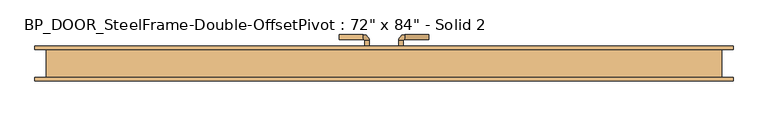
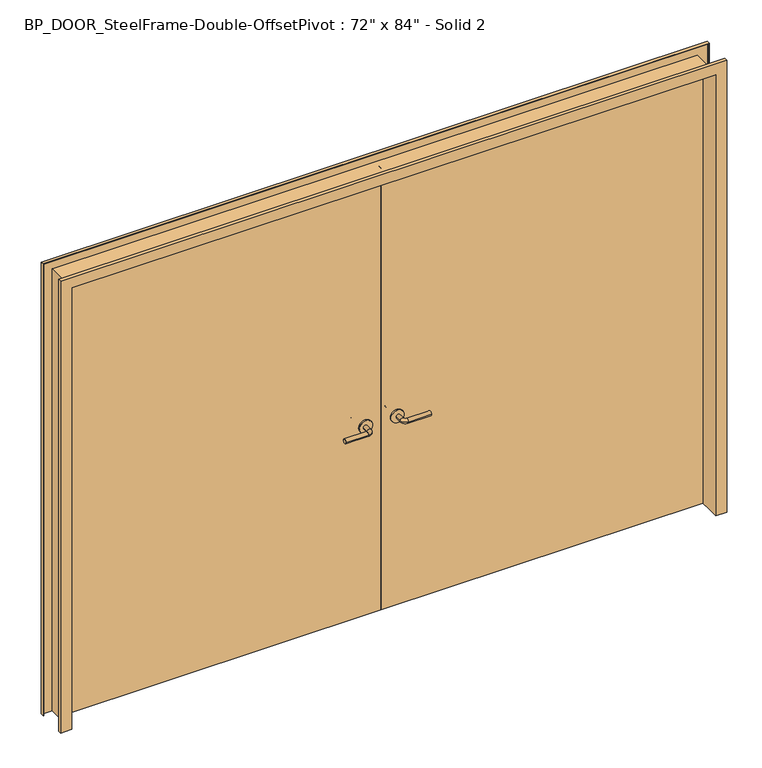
"""IFC4 building model written with IfcOpenShell, lengths in millimetres: door geometry."""

import ifcopenshell
import ifcopenshell.guid

model = None  # the IFC model being written
_history = None  # IfcOwnerHistory: only IFC2X3 demands one
_inside = {}  # id of a spatial element -> (the spatial element, [elements in it])
_under = {}  # id of a project, library or spatial element -> (it, [spatial elements below it])
_declared = {}  # id of a project -> (the project, [libraries it declares])
_typed = {}  # id of a type object -> (the type object, [elements of that type])
_made_of = {}  # id of a material, layer set ... -> (it, [elements and type objects made of it])


def new_model(schema):
    """Start an empty IFC model of exactly this schema.

    Asked for "IFC4X3", IfcOpenShell would pick the latest addendum, in which some entities
    have other attributes; the version numbers below select the first issue.
    IFC2X3 requires an IfcOwnerHistory on every rooted entity: one is made here for all.
    """
    global model, _history
    if schema == "IFC4X3":
        model = ifcopenshell.file(schema_version=(4, 3, 0, 0))
    else:
        model = ifcopenshell.file(schema=schema)
    _inside.clear()
    _under.clear()
    _declared.clear()
    _typed.clear()
    _made_of.clear()
    _history = None
    if model.schema == "IFC2X3":
        org = make("IfcOrganization", Name="unknown")
        user = make(
            "IfcPersonAndOrganization",
            ThePerson=make("IfcPerson", FamilyName="unknown"),
            TheOrganization=org,
        )
        app = make(
            "IfcApplication",
            ApplicationDeveloper=org,
            Version="unknown",
            ApplicationFullName="unknown",
            ApplicationIdentifier="unknown",
        )
        _history = make(
            "IfcOwnerHistory",
            OwningUser=user,
            OwningApplication=app,
            ChangeAction="ADDED",
            CreationDate=0,
        )
    return model


def make(cls, **values):
    """One entity of the class cls with the attributes given. An attribute that is None is left unset."""
    return model.create_entity(
        cls, **{name: value for name, value in values.items() if value is not None}
    )


def rooted(cls, **values):
    """An entity with a GlobalId (a new one), such as an element, a storey or a relation."""
    return make(cls, GlobalId=ifcopenshell.guid.new(), OwnerHistory=_history, **values)


def si_unit(unit_type, name, prefix=None):
    """IfcSIUnit, for example si_unit("LENGTHUNIT", "METRE", prefix="MILLI")."""
    return make("IfcSIUnit", UnitType=unit_type, Prefix=prefix, Name=name)


def assignment(units):
    """IfcUnitAssignment: the units of a project."""
    return None if units is None else make("IfcUnitAssignment", Units=units)


def point(xyz):
    """IfcCartesianPoint."""
    return None if xyz is None else make("IfcCartesianPoint", Coordinates=xyz)


def direction(xyz):
    """IfcDirection."""
    return None if xyz is None else make("IfcDirection", DirectionRatios=xyz)


def frame(location, z_axis=None, x_axis=None):
    """IfcAxis2Placement3D, a coordinate frame: its origin and axes. An axis left out is left unset."""
    return make(
        "IfcAxis2Placement3D",
        Location=point(location),
        Axis=direction(z_axis),
        RefDirection=direction(x_axis),
    )


def frame_2d(location, x_axis=None):
    """IfcAxis2Placement2D, a coordinate frame in the plane: its origin and x axis."""
    return make(
        "IfcAxis2Placement2D", Location=point(location), RefDirection=direction(x_axis)
    )


def origin():
    """The frame at (0, 0, 0) with its axes left unset."""
    return frame((0.0, 0.0, 0.0))


def origin_with_axes():
    """The frame at (0, 0, 0) with the z axis (0, 0, 1) and the x axis (1, 0, 0) written out."""
    return frame((0.0, 0.0, 0.0), z_axis=(0.0, 0.0, 1.0), x_axis=(1.0, 0.0, 0.0))


def place(relative_to, where):
    """IfcLocalPlacement: puts the frame where relative to a parent placement (None: the world)."""
    return make(
        "IfcLocalPlacement", PlacementRelTo=relative_to, RelativePlacement=where
    )


def context(
    kind, dimensions, precision=None, world=None, true_north=None, identifier=None
):
    """IfcGeometricRepresentationContext, for example the 3D "Model" context."""
    return make(
        "IfcGeometricRepresentationContext",
        ContextIdentifier=identifier,
        ContextType=kind,
        CoordinateSpaceDimension=dimensions,
        Precision=precision,
        WorldCoordinateSystem=world,
        TrueNorth=true_north,
    )


def project(units=None, contexts=None):
    """IfcProject with its units and contexts."""
    return rooted(
        "IfcProject",
        Name="project",
        RepresentationContexts=contexts,
        UnitsInContext=assignment(units),
    )


def spatial(cls, under=None, at=None, **own):
    """A site, building, storey or space (cls), placed at a placement, below another one or the project."""
    s = rooted(cls, ObjectPlacement=at, **own)
    if under is not None:
        _under.setdefault(under.id(), (under, []))[1].append(s)
    return s


def polyline(points):
    """IfcPolyline through the points."""
    return make("IfcPolyline", Points=[point(p) for p in points])


def circle_curve(where, radius):
    """IfcCircle in the frame where."""
    return make("IfcCircle", Position=where, Radius=radius)


def ellipse_curve(where, semi_axis1, semi_axis2):
    """IfcEllipse in the frame where."""
    return make(
        "IfcEllipse", Position=where, SemiAxis1=semi_axis1, SemiAxis2=semi_axis2
    )


def trimmed(basis, trim1, trim2, sense, master):
    """IfcTrimmedCurve: the piece of a basis curve between two trims."""
    return make(
        "IfcTrimmedCurve",
        BasisCurve=basis,
        Trim1=trim1,
        Trim2=trim2,
        SenseAgreement=sense,
        MasterRepresentation=master,
    )


def segment(curve, same_sense, transition):
    """IfcCompositeCurveSegment."""
    return make(
        "IfcCompositeCurveSegment",
        Transition=transition,
        SameSense=same_sense,
        ParentCurve=curve,
    )


def composite_curve(segments, self_intersect=None):
    """IfcCompositeCurve: segments joined end to end."""
    return make("IfcCompositeCurve", Segments=segments, SelfIntersect=self_intersect)


def outline(outer, holes=None, kind="AREA"):
    """IfcArbitraryClosedProfileDef: a profile drawn as a closed curve; with holes, ...WithVoids."""
    if holes is None:
        return make("IfcArbitraryClosedProfileDef", ProfileType=kind, OuterCurve=outer)
    return make(
        "IfcArbitraryProfileDefWithVoids",
        ProfileType=kind,
        OuterCurve=outer,
        InnerCurves=holes,
    )


def extrude(swept, where, along, depth):
    """IfcExtrudedAreaSolid: the profile swept, set in the frame where, extruded along a direction by depth."""
    return make(
        "IfcExtrudedAreaSolid",
        SweptArea=swept,
        Position=where,
        ExtrudedDirection=direction(along),
        Depth=depth,
    )


def faces_of(points, faces, orient=None, outer=None):
    """IfcFace entities. A face is a list of loops; a loop is a list of indices into points, from 0.

    orient and outer hold one flag for each loop. By default every Orientation is true, the
    first loop of a face is its IfcFaceOuterBound and the others are IfcFaceBound.
    """
    made = []
    for i, loops in enumerate(faces):
        bounds = []
        for j, loop in enumerate(loops):
            is_outer = j == 0 if outer is None else outer[i][j]
            bounds.append(
                make(
                    "IfcFaceOuterBound" if is_outer else "IfcFaceBound",
                    Bound=make("IfcPolyLoop", Polygon=[points[k] for k in loop]),
                    Orientation=True if orient is None else orient[i][j],
                )
            )
        made.append(make("IfcFace", Bounds=bounds))
    return made


def faceted_brep(points, faces, orient=None, outer=None, voids=None):
    """IfcFacetedBrep: a solid bounded by flat faces; with voids (closed shells), ...WithVoids."""
    shared = [point(p) for p in points]
    hull = make("IfcClosedShell", CfsFaces=faces_of(shared, faces, orient, outer))
    if voids is None:
        return make("IfcFacetedBrep", Outer=hull)
    return make(
        "IfcFacetedBrepWithVoids",
        Outer=hull,
        Voids=[
            make(cls, CfsFaces=faces_of(shared, fs, o, b)) for cls, fs, o, b in voids
        ],
    )


def shape(context_of_items, identifier, shape_type, items):
    """IfcShapeRepresentation: the items that make up one representation, for example the "Body"."""
    return make(
        "IfcShapeRepresentation",
        ContextOfItems=context_of_items,
        RepresentationIdentifier=identifier,
        RepresentationType=shape_type,
        Items=items,
    )


def source(mapping_origin, context_of_items, identifier, shape_type, items):
    """IfcRepresentationMap: a shape defined once, which mapped items show again and again."""
    return make(
        "IfcRepresentationMap",
        MappingOrigin=mapping_origin,
        MappedRepresentation=shape(context_of_items, identifier, shape_type, items),
    )


def transform(
    local_origin,
    x_axis=None,
    y_axis=None,
    z_axis=None,
    scale=None,
    scale2=None,
    scale3=None,
    uniform=True,
):
    """IfcCartesianTransformationOperator3D, or its non-uniform kind. x_axis, y_axis, z_axis: its Axis1, 2, 3."""
    if uniform:
        return make(
            "IfcCartesianTransformationOperator3D",
            Axis1=direction(x_axis),
            Axis2=direction(y_axis),
            LocalOrigin=point(local_origin),
            Scale=scale,
            Axis3=direction(z_axis),
        )
    return make(
        "IfcCartesianTransformationOperator3DnonUniform",
        Axis1=direction(x_axis),
        Axis2=direction(y_axis),
        LocalOrigin=point(local_origin),
        Scale=scale,
        Axis3=direction(z_axis),
        Scale2=scale2,
        Scale3=scale3,
    )


def mapped(mapping_source, mapping_target):
    """IfcMappedItem: shows the shape of a source again, moved by a transform."""
    return make(
        "IfcMappedItem", MappingSource=mapping_source, MappingTarget=mapping_target
    )


def made_of(thing, what):
    """Note that an element or type object is made of a material, layer set ...; save() writes the relation."""
    if what is not None:
        _made_of.setdefault(what.id(), (what, []))[1].append(thing)
    return thing


def element(
    cls,
    number,
    at=None,
    inside=None,
    cuts=None,
    type_object=None,
    material=None,
    context=None,
    identifier="Body",
    shape_type=None,
    held_by="IfcProductDefinitionShape",
    body=None,
    shapes=None,
    **own,
):
    """One element of the class cls, such as IfcWall. Its Tag is "e" and its number.

    at: its placement. inside: the storey or other place that contains it. cuts: it is an
    opening in that element (IfcRelVoidsElement). A single representation is given by context,
    identifier, shape_type and body (its items); several are given by shapes. held_by: the class
    of the entity that holds the representations. save() writes the other relations.
    """
    e = rooted(cls, Tag="e%d" % number, ObjectPlacement=at, **own)
    if body is not None:
        shapes = [shape(context, identifier, shape_type, body)]
    if shapes is not None:
        e.Representation = make(held_by, Representations=shapes)
    if inside is not None:
        _inside.setdefault(inside.id(), (inside, []))[1].append(e)
    if cuts is not None:
        rooted(
            "IfcRelVoidsElement", RelatingBuildingElement=cuts, RelatedOpeningElement=e
        )
    if type_object is not None:
        _typed.setdefault(type_object.id(), (type_object, []))[1].append(e)
    return made_of(e, material)


def aggregate(whole, parts):
    """IfcRelAggregates: a whole, such as a stair, and the parts it consists of."""
    return rooted("IfcRelAggregates", RelatingObject=whole, RelatedObjects=parts)


def save(model, path):
    """Write the relations noted so far, then the file.

    IfcRelAggregates (storeys below a building ...), IfcRelContainedInSpatialStructure (elements
    in a storey), IfcRelDefinesByType, IfcRelAssociatesMaterial and IfcRelDeclares: one each for
    every whole, place, type object, material and project.
    """
    for whole, parts in _under.values():
        aggregate(whole, parts)
    for where, things in _inside.values():
        rooted(
            "IfcRelContainedInSpatialStructure",
            RelatedElements=things,
            RelatingStructure=where,
        )
    for kind, things in _typed.values():
        rooted("IfcRelDefinesByType", RelatedObjects=things, RelatingType=kind)
    for what, things in _made_of.values():
        rooted("IfcRelAssociatesMaterial", RelatedObjects=things, RelatingMaterial=what)
    for by, libraries in _declared.values():
        rooted("IfcRelDeclares", RelatingContext=by, RelatedDefinitions=libraries)
    model.write(path)


def plane_surface(at):
    """IfcPlane: the flat surface through the origin of the frame at, square to its z axis."""
    return make("IfcPlane", Position=at)


def cylinder_surface(at, radius):
    """IfcCylindricalSurface: all points at the distance radius from the z axis of the frame at."""
    return make("IfcCylindricalSurface", Position=at, Radius=radius)


def revolved_surface(curve, axis_point, axis_direction):
    """IfcSurfaceOfRevolution: the curve turned about the line through axis_point along axis_direction."""
    return make(
        "IfcSurfaceOfRevolution",
        SweptCurve=make("IfcArbitraryOpenProfileDef", ProfileType="CURVE", Curve=curve),
        AxisPosition=make("IfcAxis1Placement", Location=point(axis_point), Axis=direction(axis_direction)),
    )


def advanced_brep(points, edges, surfaces, faces):
    """IfcAdvancedBrep: a solid bounded by faces that lie on surfaces and meet in shared edges.

    An edge is (start, end): straight between two places in points (the first is 0);
    or (start, end, curve); or (start, end, curve, False) where it runs against its curve.
    A face is (place in surfaces, loops), or (place, loops, False) where it looks against
    its surface's normal. A loop lists edges by number (the first is 1), with a minus sign
    where the edge is run from its end to its start. The first loop is the outer one.
    """
    corners = [point(p) for p in points]
    vertices = [make("IfcVertexPoint", VertexGeometry=c) for c in corners]
    made = []
    for start, end, *more in edges:
        made.append(
            make(
                "IfcEdgeCurve",
                EdgeStart=vertices[start],
                EdgeEnd=vertices[end],
                EdgeGeometry=more[0] if more else make("IfcPolyline", Points=[corners[start], corners[end]]),
                SameSense=more[1] if len(more) > 1 else True,
            )
        )
    hull = []
    for where, loops, *sense in faces:
        bounds = []
        for j, loop in enumerate(loops):
            ring = [make("IfcOrientedEdge", EdgeElement=made[abs(k) - 1], Orientation=k > 0) for k in loop]
            bounds.append(
                make(
                    "IfcFaceOuterBound" if j == 0 else "IfcFaceBound",
                    Bound=make("IfcEdgeLoop", EdgeList=ring),
                    Orientation=True,
                )
            )
        hull.append(make("IfcAdvancedFace", Bounds=bounds, FaceSurface=surfaces[where], SameSense=sense[0] if sense else True))
    return make("IfcAdvancedBrep", Outer=make("IfcClosedShell", CfsFaces=hull))


def door_cf1101c9(model_context):
    return source(origin(), model_context, "Body", "SolidModel", [
        extrude(outline(polyline([(1473.2, 25.4), (0.0, 25.4), (0.0, 63.5), (1473.2, 63.5), (1473.2, 25.4)])), origin_with_axes(), (0.0, 0.0, 1.0), 2133.6),
        extrude(outline(polyline([(0.0, 25.4), (-1473.2, 25.4), (-1473.2, 63.5), (0.0, 63.5), (0.0, 25.4)])), origin_with_axes(), (0.0, 0.0, 1.0), 2133.6),
        advanced_brep(
        [(-65.0, 17.4, 915.0), (-85.0, 17.4, 915.0), (-65.0, -12.6, 915.0), (-85.0, -12.6, 915.0), (-90.0, -17.6, 915.0), (-90.0, -37.6, 915.0), (-195.0, -37.6, 915.0), (-195.0, -17.6, 915.0)],
        [
            (0, 1, circle_curve(frame((-75.0, 17.4, 915.0), z_axis=(0.0, 1.0, 0.0), x_axis=(-1.0, 0.0, 0.0)), 10.0)),
            (1, 0, circle_curve(frame((-75.0, 17.4, 915.0), z_axis=(0.0, 1.0, 0.0), x_axis=(-1.0, 0.0, 0.0)), 10.0)),
            (0, 2),
            (2, 3, circle_curve(frame((-75.0, -12.6, 915.0), z_axis=(0.0, 1.0, 0.0), x_axis=(-1.0, 0.0, 0.0)), 10.0)),
            (3, 1),
            (3, 2, circle_curve(frame((-75.0, -12.6, 915.0), z_axis=(0.0, 1.0, 0.0), x_axis=(-1.0, 0.0, 0.0)), 10.0)),
            (4, 3, circle_curve(frame((-90.0, -12.6, 915.0), z_axis=(0.0, 0.0, 1.0), x_axis=(1.0, 0.0, 0.0)), 5.0)),
            (2, 5, circle_curve(frame((-90.0, -12.6, 915.0), z_axis=(0.0, 0.0, -1.0), x_axis=(1.0, 0.0, 0.0)), 25.0)),
            (5, 4, circle_curve(frame((-90.0, -27.6, 915.0), z_axis=(1.0, 0.0, 0.0), x_axis=(0.0, 1.0, 0.0)), 10.0)),
            (4, 5, circle_curve(frame((-90.0, -27.6, 915.0), z_axis=(1.0, 0.0, 0.0), x_axis=(0.0, 1.0, 0.0)), 10.0)),
            (6, 7, circle_curve(frame((-195.0, -27.6, 915.0), z_axis=(-1.0, 0.0, 0.0), x_axis=(0.0, 1.0, 0.0)), 10.0)),
            (7, 6, circle_curve(frame((-195.0, -27.6, 915.0), z_axis=(-1.0, 0.0, 0.0), x_axis=(0.0, 1.0, 0.0)), 10.0)),
            (5, 6),
            (7, 4),
        ],
        [
            plane_surface(frame((-75.0, 17.4, 915.0), z_axis=(0.0, 1.0, 0.0), x_axis=(0.0, 0.0, 1.0))),
            cylinder_surface(frame((-75.0, 17.4, 915.0), z_axis=(0.0, 1.0, 0.0), x_axis=(-1.0, 0.0, 0.0)), 10.0),
            revolved_surface(trimmed(ellipse_curve(frame((-75.0, -12.6, 915.0), z_axis=(0.0, 1.0, 0.0), x_axis=(-1.0, 0.0, 0.0)), 10.0, 10.0), [point((-65.0, -12.6, 915.0))], [point((-85.0, -12.6, 915.0))], True, "CARTESIAN"), (-90.0, -12.6, 915.0), (0.0, 0.0, -1.0)),
            revolved_surface(trimmed(ellipse_curve(frame((-75.0, -12.6, 915.0), z_axis=(0.0, 1.0, 0.0), x_axis=(-1.0, 0.0, 0.0)), 10.0, 10.0), [point((-85.0, -12.6, 915.0))], [point((-65.0, -12.6, 915.0))], True, "CARTESIAN"), (-90.0, -12.6, 915.0), (0.0, 0.0, -1.0)),
            plane_surface(frame((-195.0, -27.6, 915.0), z_axis=(-1.0, 0.0, 0.0), x_axis=(0.0, 0.0, 1.0))),
            cylinder_surface(frame((-90.0, -27.6, 915.0), z_axis=(1.0, 0.0, 0.0), x_axis=(0.0, 1.0, 0.0)), 10.0),
        ],
        [
            (0, [[1, 2]]),
            (1, [[-1, 3, 4, 5]]),
            (1, [[-2, -5, 6, -3]]),
            (2, [[7, -4, 8, 9]]),
            (3, [[-8, -6, -7, 10]]),
            (4, [[11, 12]]),
            (5, [[-9, 13, -12, 14]]),
            (5, [[-10, -14, -11, -13]]),
        ],
    ),
        extrude(outline(composite_curve([segment(trimmed(circle_curve(frame_2d((915.0, -72.5)), 30.0), [point((915.0, -42.5))], [point((915.0, -102.5))], False, "CARTESIAN"), True, "CONTINUOUS"), segment(trimmed(circle_curve(frame_2d((915.0, -72.5)), 30.0), [point((915.0, -102.5))], [point((915.0, -42.5))], False, "CARTESIAN"), True, "CONTINUOUS")], self_intersect=False)), frame((0.0, 17.4, 0.0), z_axis=(0.0, 1.0, 0.0), x_axis=(0.0, 0.0, 1.0)), (0.0, 0.0, 1.0), 8.0),
        advanced_brep(
        [(-65.0, 71.5, 915.0), (-85.0, 71.5, 915.0), (-85.0, 101.5, 915.0), (-65.0, 101.5, 915.0), (-90.0, 106.5, 915.0), (-90.0, 126.5, 915.0), (-195.0, 126.5, 915.0), (-195.0, 106.5, 915.0)],
        [
            (0, 1, circle_curve(frame((-75.0, 71.5, 915.0), z_axis=(0.0, -1.0, 0.0), x_axis=(-1.0, 0.0, 0.0)), 10.0)),
            (1, 0, circle_curve(frame((-75.0, 71.5, 915.0), z_axis=(0.0, -1.0, 0.0), x_axis=(-1.0, 0.0, 0.0)), 10.0)),
            (1, 2),
            (2, 3, circle_curve(frame((-75.0, 101.5, 915.0), z_axis=(0.0, -1.0, 0.0), x_axis=(-1.0, 0.0, 0.0)), 10.0)),
            (3, 0),
            (3, 2, circle_curve(frame((-75.0, 101.5, 915.0), z_axis=(0.0, -1.0, 0.0), x_axis=(-1.0, 0.0, 0.0)), 10.0)),
            (4, 5, circle_curve(frame((-90.0, 116.5, 915.0), z_axis=(1.0, 0.0, 0.0), x_axis=(0.0, -1.0, 0.0)), 10.0)),
            (5, 3, circle_curve(frame((-90.0, 101.5, 915.0), z_axis=(0.0, 0.0, -1.0), x_axis=(1.0, 0.0, 0.0)), 25.0)),
            (2, 4, circle_curve(frame((-90.0, 101.5, 915.0), z_axis=(0.0, 0.0, 1.0), x_axis=(1.0, 0.0, 0.0)), 5.0)),
            (5, 4, circle_curve(frame((-90.0, 116.5, 915.0), z_axis=(1.0, 0.0, 0.0), x_axis=(0.0, -1.0, 0.0)), 10.0)),
            (6, 7, circle_curve(frame((-195.0, 116.5, 915.0), z_axis=(-1.0, 0.0, 0.0), x_axis=(0.0, -1.0, 0.0)), 10.0)),
            (7, 6, circle_curve(frame((-195.0, 116.5, 915.0), z_axis=(-1.0, 0.0, 0.0), x_axis=(0.0, -1.0, 0.0)), 10.0)),
            (4, 7),
            (6, 5),
        ],
        [
            plane_surface(frame((-75.0, 71.5, 915.0), z_axis=(0.0, -1.0, 0.0), x_axis=(0.0, 0.0, 1.0))),
            cylinder_surface(frame((-75.0, 71.5, 915.0), z_axis=(0.0, -1.0, 0.0), x_axis=(-1.0, 0.0, 0.0)), 10.0),
            revolved_surface(trimmed(ellipse_curve(frame((-75.0, 101.5, 915.0), z_axis=(0.0, 1.0, 0.0), x_axis=(-1.0, 0.0, 0.0)), 10.0, 10.0), [point((-65.0, 101.5, 915.0))], [point((-85.0, 101.5, 915.0))], True, "CARTESIAN"), (-90.0, 101.5, 915.0), (0.0, 0.0, -1.0)),
            revolved_surface(trimmed(ellipse_curve(frame((-75.0, 101.5, 915.0), z_axis=(0.0, 1.0, 0.0), x_axis=(-1.0, 0.0, 0.0)), 10.0, 10.0), [point((-85.0, 101.5, 915.0))], [point((-65.0, 101.5, 915.0))], True, "CARTESIAN"), (-90.0, 101.5, 915.0), (0.0, 0.0, -1.0)),
            plane_surface(frame((-195.0, 116.5, 915.0), z_axis=(-1.0, 0.0, 0.0), x_axis=(0.0, 0.0, 1.0))),
            cylinder_surface(frame((-90.0, 116.5, 915.0), z_axis=(1.0, 0.0, 0.0), x_axis=(0.0, -1.0, 0.0)), 10.0),
        ],
        [
            (0, [[1, 2]]),
            (1, [[3, 4, 5, -2]]),
            (1, [[-5, 6, -3, -1]]),
            (2, [[7, 8, -4, 9]]),
            (3, [[10, -9, -6, -8]]),
            (4, [[11, 12]]),
            (5, [[13, -11, 14, -7]]),
            (5, [[-14, -12, -13, -10]]),
        ],
    ),
        extrude(outline(composite_curve([segment(trimmed(circle_curve(frame_2d((915.0, -72.5)), 30.0), [point((915.0, -42.5))], [point((915.0, -102.5))], False, "CARTESIAN"), True, "CONTINUOUS"), segment(trimmed(circle_curve(frame_2d((915.0, -72.5)), 30.0), [point((915.0, -102.5))], [point((915.0, -42.5))], False, "CARTESIAN"), True, "CONTINUOUS")], self_intersect=False)), frame((0.0, 63.5, 0.0), z_axis=(0.0, 1.0, 0.0), x_axis=(0.0, 0.0, 1.0)), (0.0, 0.0, 1.0), 8.0),
        faceted_brep([(1524.0, -61.2, 0.0), (1524.0, -76.2, 0.0), (1473.2, -76.2, 0.0), (1473.2, 76.2, 0.0), (1524.0, 76.2, 0.0), (1524.0, 61.2, 0.0), (1522.0, 61.2, 0.0), (1522.0, 74.2, 0.0), (1475.2, 74.2, 0.0), (1475.2, -74.2, 0.0), (1522.0, -74.2, 0.0), (1522.0, -61.2, 0.0), (1522.0, -61.2, 2182.4), (-1522.0, -61.2, 2182.4), (-1522.0, -61.2, 0.0), (-1524.0, -61.2, 0.0), (-1524.0, -61.2, 2184.4), (1524.0, -61.2, 2184.4), (1522.0, -74.2, 2182.4), (1475.2, -74.2, 2135.6), (-1475.2, -74.2, 2135.6), (-1475.2, -74.2, 0.0), (-1522.0, -74.2, 0.0), (-1522.0, -74.2, 2182.4), (1475.2, 74.2, 2135.6), (1522.0, 74.2, 2182.4), (-1522.0, 74.2, 2182.4), (-1522.0, 74.2, 0.0), (-1475.2, 74.2, 0.0), (-1475.2, 74.2, 2135.6), (1522.0, 61.2, 2182.4), (1524.0, 61.2, 2184.4), (-1524.0, 61.2, 2184.4), (-1524.0, 61.2, 0.0), (-1522.0, 61.2, 0.0), (-1522.0, 61.2, 2182.4), (1524.0, 76.2, 2184.4), (1473.2, 76.2, 2133.6), (-1473.2, 76.2, 2133.6), (-1473.2, 76.2, 0.0), (-1524.0, 76.2, 0.0), (-1524.0, 76.2, 2184.4), (1473.2, -76.2, 2133.6), (1524.0, -76.2, 2184.4), (-1524.0, -76.2, 2184.4), (-1524.0, -76.2, 0.0), (-1473.2, -76.2, 0.0), (-1473.2, -76.2, 2133.6)], [[[0, 1, 2, 3, 4, 5, 6, 7, 8, 9, 10, 11]], [[0, 11, 12, 13, 14, 15, 16, 17]], [[11, 10, 18, 12]], [[10, 9, 19, 20, 21, 22, 23, 18]], [[9, 8, 24, 19]], [[8, 7, 25, 26, 27, 28, 29, 24]], [[7, 6, 30, 25]], [[6, 5, 31, 32, 33, 34, 35, 30]], [[5, 4, 36, 31]], [[4, 3, 37, 38, 39, 40, 41, 36]], [[3, 2, 42, 37]], [[2, 1, 43, 44, 45, 46, 47, 42]], [[1, 0, 17, 43]], [[12, 18, 23, 13]], [[19, 24, 29, 20]], [[25, 30, 35, 26]], [[31, 36, 41, 32]], [[37, 42, 47, 38]], [[43, 17, 16, 44]], [[15, 14, 22, 21, 28, 27, 34, 33, 40, 39, 46, 45]], [[13, 23, 22, 14]], [[20, 29, 28, 21]], [[26, 35, 34, 27]], [[32, 41, 40, 33]], [[38, 47, 46, 39]], [[44, 16, 15, 45]]]),
        advanced_brep(
        [(65.0, 17.4, 915.0), (85.0, 17.4, 915.0), (85.0, -12.6, 915.0), (65.0, -12.6, 915.0), (90.0, -17.6, 915.0), (90.0, -37.6, 915.0), (195.0, -37.6, 915.0), (195.0, -17.6, 915.0)],
        [
            (0, 1, circle_curve(frame((75.0, 17.4, 915.0), z_axis=(0.0, 1.0, 0.0), x_axis=(1.0, 0.0, 0.0)), 10.0)),
            (1, 0, circle_curve(frame((75.0, 17.4, 915.0), z_axis=(0.0, 1.0, 0.0), x_axis=(1.0, 0.0, 0.0)), 10.0)),
            (1, 2),
            (2, 3, circle_curve(frame((75.0, -12.6, 915.0), z_axis=(0.0, 1.0, 0.0), x_axis=(1.0, 0.0, 0.0)), 10.0)),
            (3, 0),
            (3, 2, circle_curve(frame((75.0, -12.6, 915.0), z_axis=(0.0, 1.0, 0.0), x_axis=(1.0, 0.0, 0.0)), 10.0)),
            (4, 5, circle_curve(frame((90.0, -27.6, 915.0), z_axis=(-1.0, 0.0, 0.0), x_axis=(0.0, 1.0, 0.0)), 10.0)),
            (5, 3, circle_curve(frame((90.0, -12.6, 915.0), z_axis=(0.0, 0.0, -1.0), x_axis=(-1.0, 0.0, 0.0)), 25.0)),
            (2, 4, circle_curve(frame((90.0, -12.6, 915.0), z_axis=(0.0, 0.0, 1.0), x_axis=(-1.0, 0.0, 0.0)), 5.0)),
            (5, 4, circle_curve(frame((90.0, -27.6, 915.0), z_axis=(-1.0, 0.0, 0.0), x_axis=(0.0, 1.0, 0.0)), 10.0)),
            (6, 7, circle_curve(frame((195.0, -27.6, 915.0), z_axis=(1.0, 0.0, 0.0), x_axis=(0.0, 1.0, 0.0)), 10.0)),
            (7, 6, circle_curve(frame((195.0, -27.6, 915.0), z_axis=(1.0, 0.0, 0.0), x_axis=(0.0, 1.0, 0.0)), 10.0)),
            (4, 7),
            (6, 5),
        ],
        [
            plane_surface(frame((75.0, 17.4, 915.0), z_axis=(0.0, 1.0, 0.0), x_axis=(0.0, 0.0, 1.0))),
            cylinder_surface(frame((75.0, 17.4, 915.0), z_axis=(0.0, 1.0, 0.0), x_axis=(1.0, 0.0, 0.0)), 10.0),
            revolved_surface(trimmed(ellipse_curve(frame((75.0, -12.6, 915.0), z_axis=(0.0, -1.0, 0.0), x_axis=(1.0, 0.0, 0.0)), 10.0, 10.0), [point((65.0, -12.6, 915.0))], [point((85.0, -12.6, 915.0))], True, "CARTESIAN"), (90.0, -12.6, 915.0), (0.0, 0.0, -1.0)),
            revolved_surface(trimmed(ellipse_curve(frame((75.0, -12.6, 915.0), z_axis=(0.0, -1.0, 0.0), x_axis=(1.0, 0.0, 0.0)), 10.0, 10.0), [point((85.0, -12.6, 915.0))], [point((65.0, -12.6, 915.0))], True, "CARTESIAN"), (90.0, -12.6, 915.0), (0.0, 0.0, -1.0)),
            plane_surface(frame((195.0, -27.6, 915.0), z_axis=(1.0, 0.0, 0.0), x_axis=(0.0, 0.0, 1.0))),
            cylinder_surface(frame((90.0, -27.6, 915.0), z_axis=(-1.0, 0.0, 0.0), x_axis=(0.0, 1.0, 0.0)), 10.0),
        ],
        [
            (0, [[1, 2]]),
            (1, [[3, 4, 5, -2]]),
            (1, [[-5, 6, -3, -1]]),
            (2, [[7, 8, -4, 9]]),
            (3, [[10, -9, -6, -8]]),
            (4, [[11, 12]]),
            (5, [[13, -11, 14, -7]]),
            (5, [[-14, -12, -13, -10]]),
        ],
    ),
        extrude(outline(composite_curve([segment(trimmed(circle_curve(frame_2d((915.0, 72.5)), 30.0), [point((915.0, 42.5))], [point((915.0, 102.5))], False, "CARTESIAN"), True, "CONTINUOUS"), segment(trimmed(circle_curve(frame_2d((915.0, 72.5)), 30.0), [point((915.0, 102.5))], [point((915.0, 42.5))], False, "CARTESIAN"), True, "CONTINUOUS")], self_intersect=False)), frame((0.0, 17.4, 0.0), z_axis=(0.0, 1.0, 0.0), x_axis=(0.0, 0.0, 1.0)), (0.0, 0.0, 1.0), 8.0),
        advanced_brep(
        [(65.0, 71.5, 915.0), (85.0, 71.5, 915.0), (65.0, 101.5, 915.0), (85.0, 101.5, 915.0), (90.0, 106.5, 915.0), (90.0, 126.5, 915.0), (195.0, 126.5, 915.0), (195.0, 106.5, 915.0)],
        [
            (0, 1, circle_curve(frame((75.0, 71.5, 915.0), z_axis=(0.0, -1.0, 0.0), x_axis=(1.0, 0.0, 0.0)), 10.0)),
            (1, 0, circle_curve(frame((75.0, 71.5, 915.0), z_axis=(0.0, -1.0, 0.0), x_axis=(1.0, 0.0, 0.0)), 10.0)),
            (0, 2),
            (2, 3, circle_curve(frame((75.0, 101.5, 915.0), z_axis=(0.0, -1.0, 0.0), x_axis=(1.0, 0.0, 0.0)), 10.0)),
            (3, 1),
            (3, 2, circle_curve(frame((75.0, 101.5, 915.0), z_axis=(0.0, -1.0, 0.0), x_axis=(1.0, 0.0, 0.0)), 10.0)),
            (4, 3, circle_curve(frame((90.0, 101.5, 915.0), z_axis=(0.0, 0.0, 1.0), x_axis=(-1.0, 0.0, 0.0)), 5.0)),
            (2, 5, circle_curve(frame((90.0, 101.5, 915.0), z_axis=(0.0, 0.0, -1.0), x_axis=(-1.0, 0.0, 0.0)), 25.0)),
            (5, 4, circle_curve(frame((90.0, 116.5, 915.0), z_axis=(-1.0, 0.0, 0.0), x_axis=(0.0, -1.0, 0.0)), 10.0)),
            (4, 5, circle_curve(frame((90.0, 116.5, 915.0), z_axis=(-1.0, 0.0, 0.0), x_axis=(0.0, -1.0, 0.0)), 10.0)),
            (6, 7, circle_curve(frame((195.0, 116.5, 915.0), z_axis=(1.0, 0.0, 0.0), x_axis=(0.0, -1.0, 0.0)), 10.0)),
            (7, 6, circle_curve(frame((195.0, 116.5, 915.0), z_axis=(1.0, 0.0, 0.0), x_axis=(0.0, -1.0, 0.0)), 10.0)),
            (5, 6),
            (7, 4),
        ],
        [
            plane_surface(frame((75.0, 71.5, 915.0), z_axis=(0.0, -1.0, 0.0), x_axis=(0.0, 0.0, 1.0))),
            cylinder_surface(frame((75.0, 71.5, 915.0), z_axis=(0.0, -1.0, 0.0), x_axis=(1.0, 0.0, 0.0)), 10.0),
            revolved_surface(trimmed(ellipse_curve(frame((75.0, 101.5, 915.0), z_axis=(0.0, -1.0, 0.0), x_axis=(1.0, 0.0, 0.0)), 10.0, 10.0), [point((65.0, 101.5, 915.0))], [point((85.0, 101.5, 915.0))], True, "CARTESIAN"), (90.0, 101.5, 915.0), (0.0, 0.0, -1.0)),
            revolved_surface(trimmed(ellipse_curve(frame((75.0, 101.5, 915.0), z_axis=(0.0, -1.0, 0.0), x_axis=(1.0, 0.0, 0.0)), 10.0, 10.0), [point((85.0, 101.5, 915.0))], [point((65.0, 101.5, 915.0))], True, "CARTESIAN"), (90.0, 101.5, 915.0), (0.0, 0.0, -1.0)),
            plane_surface(frame((195.0, 116.5, 915.0), z_axis=(1.0, 0.0, 0.0), x_axis=(0.0, 0.0, 1.0))),
            cylinder_surface(frame((90.0, 116.5, 915.0), z_axis=(-1.0, 0.0, 0.0), x_axis=(0.0, -1.0, 0.0)), 10.0),
        ],
        [
            (0, [[1, 2]]),
            (1, [[-1, 3, 4, 5]]),
            (1, [[-2, -5, 6, -3]]),
            (2, [[7, -4, 8, 9]]),
            (3, [[-8, -6, -7, 10]]),
            (4, [[11, 12]]),
            (5, [[-9, 13, -12, 14]]),
            (5, [[-10, -14, -11, -13]]),
        ],
    ),
        extrude(outline(composite_curve([segment(trimmed(circle_curve(frame_2d((915.0, 72.5)), 30.0), [point((915.0, 42.5))], [point((915.0, 102.5))], False, "CARTESIAN"), True, "CONTINUOUS"), segment(trimmed(circle_curve(frame_2d((915.0, 72.5)), 30.0), [point((915.0, 102.5))], [point((915.0, 42.5))], False, "CARTESIAN"), True, "CONTINUOUS")], self_intersect=False)), frame((0.0, 63.5, 0.0), z_axis=(0.0, 1.0, 0.0), x_axis=(0.0, 0.0, 1.0)), (0.0, 0.0, 1.0), 8.0),
    ])


if __name__ == "__main__":
    model = new_model("IFC4")
    model_context = context("Model", 3, world=origin())
    ifc_project = project(units=[si_unit("LENGTHUNIT", "METRE", prefix="MILLI")], contexts=[model_context])
    site = spatial("IfcSite", under=ifc_project)
    building = spatial("IfcBuilding", under=site)
    placement = place(None, origin())
    door_shape = door_cf1101c9(model_context)
    element("IfcDoor", 1, ObjectType="BP_DOOR_SteelFrame-Double-OffsetPivot : 72\" x 84\" - Solid 2", at=placement, inside=building, context=model_context, shape_type="MappedRepresentation", body=[
        mapped(door_shape, transform((0.0, 0.0, 0.0), x_axis=(1.0, 0.0, 0.0), y_axis=(0.0, 1.0, 0.0), z_axis=(0.0, 0.0, 1.0))),
    ])
    save(model, "model.ifc")
